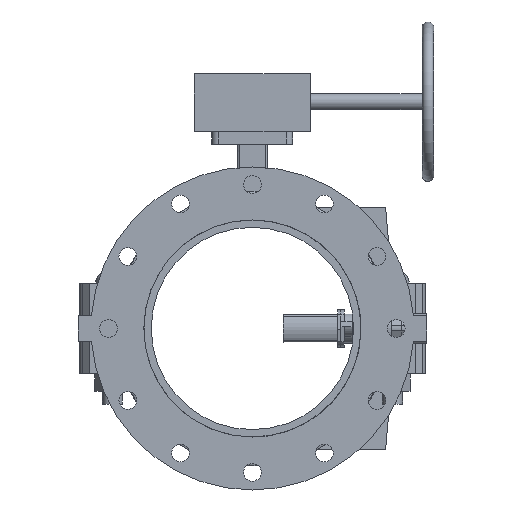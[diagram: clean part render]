
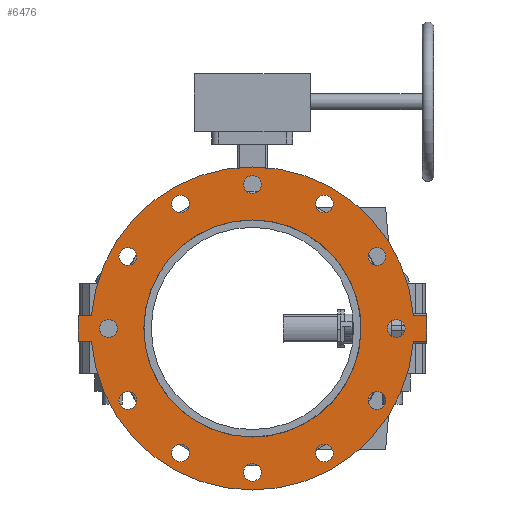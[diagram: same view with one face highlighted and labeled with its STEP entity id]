
A CAD part, front view. The second image highlights one B-rep face of the part: STEP entity #6476.
In plain terms, the highlighted planar face has unit normal (0, -1, 0) as drawn and (0, 0, -1) by its records, which use the part's own axes.
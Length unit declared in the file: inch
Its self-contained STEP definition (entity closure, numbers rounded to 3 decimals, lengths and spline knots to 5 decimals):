
#154=FACE_BOUND('',#838,.T.);
#155=FACE_BOUND('',#839,.T.);
#156=FACE_BOUND('',#840,.T.);
#157=FACE_BOUND('',#841,.T.);
#158=FACE_BOUND('',#842,.T.);
#159=FACE_BOUND('',#843,.T.);
#160=FACE_BOUND('',#844,.T.);
#161=FACE_BOUND('',#845,.T.);
#162=FACE_BOUND('',#846,.T.);
#163=FACE_BOUND('',#847,.T.);
#164=FACE_BOUND('',#848,.T.);
#165=FACE_BOUND('',#849,.T.);
#166=FACE_BOUND('',#850,.T.);
#248=PLANE('',#7048);
#479=FACE_OUTER_BOUND('',#837,.T.);
#837=EDGE_LOOP('',(#4197,#4198,#4199,#4200,#4201,#4202,#4203,#4204));
#838=EDGE_LOOP('',(#4205));
#839=EDGE_LOOP('',(#4206));
#840=EDGE_LOOP('',(#4207));
#841=EDGE_LOOP('',(#4208));
#842=EDGE_LOOP('',(#4209));
#843=EDGE_LOOP('',(#4210));
#844=EDGE_LOOP('',(#4211));
#845=EDGE_LOOP('',(#4212));
#846=EDGE_LOOP('',(#4213));
#847=EDGE_LOOP('',(#4214));
#848=EDGE_LOOP('',(#4215));
#849=EDGE_LOOP('',(#4216));
#850=EDGE_LOOP('',(#4217,#4218));
#1289=LINE('',#9820,#1773);
#1290=LINE('',#9822,#1774);
#1291=LINE('',#9824,#1775);
#1292=LINE('',#9828,#1776);
#1293=LINE('',#9830,#1777);
#1294=LINE('',#9831,#1778);
#1773=VECTOR('',#7851,0.3937);
#1774=VECTOR('',#7852,0.3937);
#1775=VECTOR('',#7853,0.3937);
#1776=VECTOR('',#7856,0.3937);
#1777=VECTOR('',#7857,0.3937);
#1778=VECTOR('',#7858,0.3937);
#2246=CIRCLE('',#7014,0.4375);
#2248=CIRCLE('',#7017,0.4375);
#2250=CIRCLE('',#7020,0.4375);
#2252=CIRCLE('',#7023,0.4375);
#2254=CIRCLE('',#7026,0.4375);
#2256=CIRCLE('',#7029,0.4375);
#2258=CIRCLE('',#7032,0.4375);
#2260=CIRCLE('',#7035,0.4375);
#2262=CIRCLE('',#7038,0.4375);
#2264=CIRCLE('',#7041,0.4375);
#2266=CIRCLE('',#7044,0.4375);
#2268=CIRCLE('',#7047,0.4375);
#2269=CIRCLE('',#7049,8.);
#2270=CIRCLE('',#7050,8.);
#2271=CIRCLE('',#7051,5.375);
#2272=CIRCLE('',#7052,5.375);
#2612=VERTEX_POINT('',#9746);
#2614=VERTEX_POINT('',#9752);
#2616=VERTEX_POINT('',#9758);
#2618=VERTEX_POINT('',#9764);
#2620=VERTEX_POINT('',#9770);
#2622=VERTEX_POINT('',#9776);
#2624=VERTEX_POINT('',#9782);
#2626=VERTEX_POINT('',#9788);
#2628=VERTEX_POINT('',#9794);
#2630=VERTEX_POINT('',#9800);
#2632=VERTEX_POINT('',#9806);
#2634=VERTEX_POINT('',#9812);
#2635=VERTEX_POINT('',#9816);
#2636=VERTEX_POINT('',#9817);
#2637=VERTEX_POINT('',#9819);
#2638=VERTEX_POINT('',#9821);
#2639=VERTEX_POINT('',#9823);
#2640=VERTEX_POINT('',#9825);
#2641=VERTEX_POINT('',#9827);
#2642=VERTEX_POINT('',#9829);
#2643=VERTEX_POINT('',#9832);
#2644=VERTEX_POINT('',#9833);
#3235=EDGE_CURVE('',#2612,#2612,#2246,.T.);
#3238=EDGE_CURVE('',#2614,#2614,#2248,.T.);
#3241=EDGE_CURVE('',#2616,#2616,#2250,.T.);
#3244=EDGE_CURVE('',#2618,#2618,#2252,.T.);
#3247=EDGE_CURVE('',#2620,#2620,#2254,.T.);
#3250=EDGE_CURVE('',#2622,#2622,#2256,.T.);
#3253=EDGE_CURVE('',#2624,#2624,#2258,.T.);
#3256=EDGE_CURVE('',#2626,#2626,#2260,.T.);
#3259=EDGE_CURVE('',#2628,#2628,#2262,.T.);
#3262=EDGE_CURVE('',#2630,#2630,#2264,.T.);
#3265=EDGE_CURVE('',#2632,#2632,#2266,.T.);
#3268=EDGE_CURVE('',#2634,#2634,#2268,.T.);
#3269=EDGE_CURVE('',#2635,#2636,#2269,.T.);
#3270=EDGE_CURVE('',#2636,#2637,#1289,.T.);
#3271=EDGE_CURVE('',#2637,#2638,#1290,.T.);
#3272=EDGE_CURVE('',#2638,#2639,#1291,.T.);
#3273=EDGE_CURVE('',#2639,#2640,#2270,.T.);
#3274=EDGE_CURVE('',#2640,#2641,#1292,.T.);
#3275=EDGE_CURVE('',#2641,#2642,#1293,.T.);
#3276=EDGE_CURVE('',#2642,#2635,#1294,.T.);
#3277=EDGE_CURVE('',#2643,#2644,#2271,.T.);
#3278=EDGE_CURVE('',#2644,#2643,#2272,.T.);
#4197=ORIENTED_EDGE('',*,*,#3269,.T.);
#4198=ORIENTED_EDGE('',*,*,#3270,.T.);
#4199=ORIENTED_EDGE('',*,*,#3271,.T.);
#4200=ORIENTED_EDGE('',*,*,#3272,.T.);
#4201=ORIENTED_EDGE('',*,*,#3273,.T.);
#4202=ORIENTED_EDGE('',*,*,#3274,.T.);
#4203=ORIENTED_EDGE('',*,*,#3275,.T.);
#4204=ORIENTED_EDGE('',*,*,#3276,.T.);
#4205=ORIENTED_EDGE('',*,*,#3235,.T.);
#4206=ORIENTED_EDGE('',*,*,#3238,.T.);
#4207=ORIENTED_EDGE('',*,*,#3241,.T.);
#4208=ORIENTED_EDGE('',*,*,#3244,.T.);
#4209=ORIENTED_EDGE('',*,*,#3247,.T.);
#4210=ORIENTED_EDGE('',*,*,#3250,.T.);
#4211=ORIENTED_EDGE('',*,*,#3253,.T.);
#4212=ORIENTED_EDGE('',*,*,#3256,.T.);
#4213=ORIENTED_EDGE('',*,*,#3259,.T.);
#4214=ORIENTED_EDGE('',*,*,#3262,.T.);
#4215=ORIENTED_EDGE('',*,*,#3265,.T.);
#4216=ORIENTED_EDGE('',*,*,#3268,.T.);
#4217=ORIENTED_EDGE('',*,*,#3277,.T.);
#4218=ORIENTED_EDGE('',*,*,#3278,.T.);
#6476=ADVANCED_FACE('',(#479,#154,#155,#156,#157,#158,#159,#160,#161,#162,
#163,#164,#165,#166),#248,.T.);
#7014=AXIS2_PLACEMENT_3D('',#9748,#7768,#7769);
#7017=AXIS2_PLACEMENT_3D('',#9754,#7775,#7776);
#7020=AXIS2_PLACEMENT_3D('',#9760,#7782,#7783);
#7023=AXIS2_PLACEMENT_3D('',#9766,#7789,#7790);
#7026=AXIS2_PLACEMENT_3D('',#9772,#7796,#7797);
#7029=AXIS2_PLACEMENT_3D('',#9778,#7803,#7804);
#7032=AXIS2_PLACEMENT_3D('',#9784,#7810,#7811);
#7035=AXIS2_PLACEMENT_3D('',#9790,#7817,#7818);
#7038=AXIS2_PLACEMENT_3D('',#9796,#7824,#7825);
#7041=AXIS2_PLACEMENT_3D('',#9802,#7831,#7832);
#7044=AXIS2_PLACEMENT_3D('',#9808,#7838,#7839);
#7047=AXIS2_PLACEMENT_3D('',#9814,#7845,#7846);
#7048=AXIS2_PLACEMENT_3D('',#9815,#7847,#7848);
#7049=AXIS2_PLACEMENT_3D('',#9818,#7849,#7850);
#7050=AXIS2_PLACEMENT_3D('',#9826,#7854,#7855);
#7051=AXIS2_PLACEMENT_3D('',#9834,#7859,#7860);
#7052=AXIS2_PLACEMENT_3D('',#9835,#7861,#7862);
#7768=DIRECTION('center_axis',(0.,0.,1.));
#7769=DIRECTION('ref_axis',(-0.866,0.5,0.));
#7775=DIRECTION('center_axis',(0.,0.,1.));
#7776=DIRECTION('ref_axis',(-0.5,0.866,0.));
#7782=DIRECTION('center_axis',(0.,0.,1.));
#7783=DIRECTION('ref_axis',(0.,1.,0.));
#7789=DIRECTION('center_axis',(0.,0.,1.));
#7790=DIRECTION('ref_axis',(0.5,0.866,0.));
#7796=DIRECTION('center_axis',(0.,0.,1.));
#7797=DIRECTION('ref_axis',(0.866,0.5,0.));
#7803=DIRECTION('center_axis',(0.,0.,1.));
#7804=DIRECTION('ref_axis',(1.,0.,0.));
#7810=DIRECTION('center_axis',(0.,0.,1.));
#7811=DIRECTION('ref_axis',(0.866,-0.5,0.));
#7817=DIRECTION('center_axis',(0.,0.,1.));
#7818=DIRECTION('ref_axis',(0.5,-0.866,0.));
#7824=DIRECTION('center_axis',(0.,0.,1.));
#7825=DIRECTION('ref_axis',(0.,-1.,0.));
#7831=DIRECTION('center_axis',(0.,0.,1.));
#7832=DIRECTION('ref_axis',(-0.5,-0.866,0.));
#7838=DIRECTION('center_axis',(0.,0.,1.));
#7839=DIRECTION('ref_axis',(-0.866,-0.5,0.));
#7845=DIRECTION('center_axis',(0.,0.,1.));
#7846=DIRECTION('ref_axis',(-1.,0.,0.));
#7847=DIRECTION('center_axis',(0.,0.,-1.));
#7848=DIRECTION('ref_axis',(-1.,0.,0.));
#7849=DIRECTION('center_axis',(0.,0.,-1.));
#7850=DIRECTION('ref_axis',(-1.,0.,0.));
#7851=DIRECTION('',(0.,1.,0.));
#7852=DIRECTION('',(1.,0.,0.));
#7853=DIRECTION('',(0.,-1.,0.));
#7854=DIRECTION('center_axis',(0.,0.,-1.));
#7855=DIRECTION('ref_axis',(-1.,0.,0.));
#7856=DIRECTION('',(0.,-1.,0.));
#7857=DIRECTION('',(-1.,0.,0.));
#7858=DIRECTION('',(0.,1.,0.));
#7859=DIRECTION('center_axis',(0.,0.,1.));
#7860=DIRECTION('ref_axis',(-1.,0.,0.));
#7861=DIRECTION('center_axis',(0.,0.,1.));
#7862=DIRECTION('ref_axis',(-1.,0.,0.));
#9746=CARTESIAN_POINT('',(-5.79154,3.34375,-0.625));
#9748=CARTESIAN_POINT('Origin',(-6.17043,3.5625,-0.625));
#9752=CARTESIAN_POINT('',(-3.34375,5.79154,-0.625));
#9754=CARTESIAN_POINT('Origin',(-3.5625,6.17043,-0.625));
#9758=CARTESIAN_POINT('',(0.,6.6875,-0.625));
#9760=CARTESIAN_POINT('Origin',(0.,7.125,-0.625));
#9764=CARTESIAN_POINT('',(3.34375,5.79154,-0.625));
#9766=CARTESIAN_POINT('Origin',(3.5625,6.17043,-0.625));
#9770=CARTESIAN_POINT('',(5.79154,3.34375,-0.625));
#9772=CARTESIAN_POINT('Origin',(6.17043,3.5625,-0.625));
#9776=CARTESIAN_POINT('',(6.6875,0.,-0.625));
#9778=CARTESIAN_POINT('Origin',(7.125,0.,-0.625));
#9782=CARTESIAN_POINT('',(5.79154,-3.34375,-0.625));
#9784=CARTESIAN_POINT('Origin',(6.17043,-3.5625,-0.625));
#9788=CARTESIAN_POINT('',(3.34375,-5.79154,-0.625));
#9790=CARTESIAN_POINT('Origin',(3.5625,-6.17043,-0.625));
#9794=CARTESIAN_POINT('',(0.,-6.6875,-0.625));
#9796=CARTESIAN_POINT('Origin',(0.,-7.125,-0.625));
#9800=CARTESIAN_POINT('',(-3.34375,-5.79154,-0.625));
#9802=CARTESIAN_POINT('Origin',(-3.5625,-6.17043,-0.625));
#9806=CARTESIAN_POINT('',(-5.79154,-3.34375,-0.625));
#9808=CARTESIAN_POINT('Origin',(-6.17043,-3.5625,-0.625));
#9812=CARTESIAN_POINT('',(-6.6875,0.,-0.625));
#9814=CARTESIAN_POINT('Origin',(-7.125,0.,-0.625));
#9815=CARTESIAN_POINT('Origin',(0.,0.,-0.625));
#9816=CARTESIAN_POINT('',(-0.625,-7.97555,-0.625));
#9817=CARTESIAN_POINT('',(-0.625,7.97555,-0.625));
#9818=CARTESIAN_POINT('Origin',(0.,0.,-0.625));
#9819=CARTESIAN_POINT('',(-0.625,8.625,-0.625));
#9820=CARTESIAN_POINT('',(-0.625,-8.625,-0.625));
#9821=CARTESIAN_POINT('',(0.625,8.625,-0.625));
#9822=CARTESIAN_POINT('',(-0.625,8.625,-0.625));
#9823=CARTESIAN_POINT('',(0.625,7.97555,-0.625));
#9824=CARTESIAN_POINT('',(0.625,8.625,-0.625));
#9825=CARTESIAN_POINT('',(0.625,-7.97555,-0.625));
#9826=CARTESIAN_POINT('Origin',(0.,0.,-0.625));
#9827=CARTESIAN_POINT('',(0.625,-8.625,-0.625));
#9828=CARTESIAN_POINT('',(0.625,8.625,-0.625));
#9829=CARTESIAN_POINT('',(-0.625,-8.625,-0.625));
#9830=CARTESIAN_POINT('',(0.625,-8.625,-0.625));
#9831=CARTESIAN_POINT('',(-0.625,-8.625,-0.625));
#9832=CARTESIAN_POINT('',(0.625,5.33854,-0.625));
#9833=CARTESIAN_POINT('',(5.375,0.,-0.625));
#9834=CARTESIAN_POINT('Origin',(0.,0.,-0.625));
#9835=CARTESIAN_POINT('Origin',(0.,0.,-0.625));
